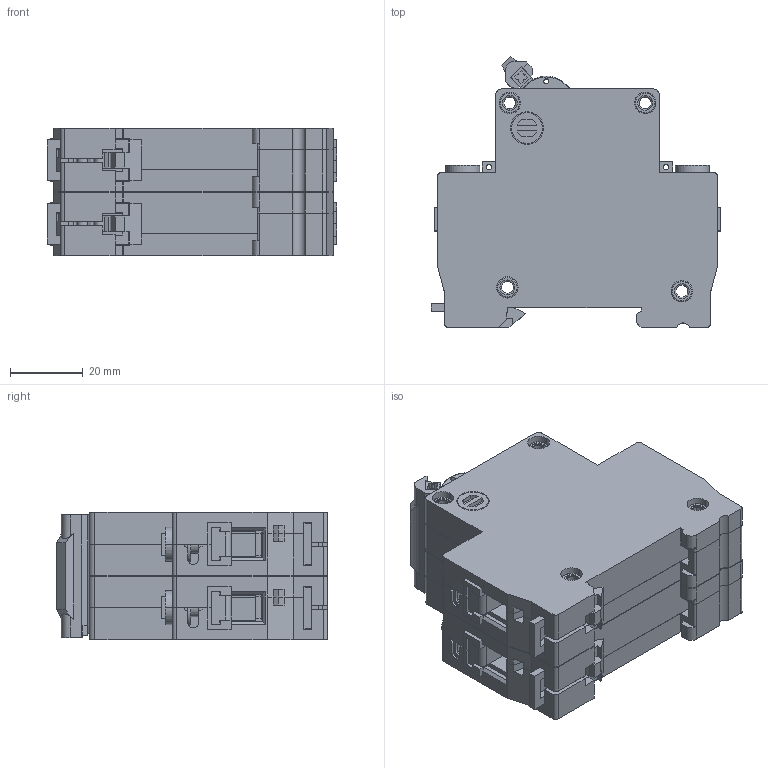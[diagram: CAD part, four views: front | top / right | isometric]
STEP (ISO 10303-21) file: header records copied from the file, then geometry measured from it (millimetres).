
FILE_DESCRIPTION (( 'STEP AP214' ), '1' );
FILE_NAME ('臍47-29 2 瀁錌黟.STEP', '2022-11-18T09:54:59', ( '' ), ( '' ), 'SwSTEP 2.0', 'SolidWorks 2018', '' );
FILE_SCHEMA (( 'AUTOMOTIVE_DESIGN' ));
Length unit declared in the file: millimetre
Products named in the file (13): ﾂﾀ47-29 1ﾕ Changan 04.2022_尚皚･､ｭｨｩ ｯｮｫ髜; 青汶篪赅 (吕47-29) 14.02.2022; Êîëîäêà (ÂÀ47-29) 14.02.2022; ÂÀ47-29 1Õ Changan 04.2022_1 ¤«ï 2; Áîêîâèíà ëåâàÿ (ÂÀ47-29 Changan) 04.2022; 青觌屣赅 (吕47-29 OFA) 04.2022_2 釥; Áîêîâèíà ïðàâàÿ (ÂÀ47-29 Changan) 04.2022; Ðó÷êà (ÂÀ47-29 Changan) 04.2022; ﾂ鏆鮏 (ﾂﾀ47-29 OFA) 14.02.2022; 臍47-29 2 瀁錌黟; 鎔艜 (臍47-29) 14.02.2022; Ñêîáà (ÂÀ47-29 OFA) 04.2022_2 ¯®«îá ; Çàùåëêà (ÂÀ47-29 Changan) 04.2022
Assembly tree (32 placements, depth 3):
  臍47-29 2 瀁錌黟
    ÂÀ47-29 1Õ Changan 04.2022_1 ¤«ï 2
      Áîêîâèíà ïðàâàÿ (ÂÀ47-29 Changan) 04.2022
      Áîêîâèíà ëåâàÿ (ÂÀ47-29 Changan) 04.2022
      Çàùåëêà (ÂÀ47-29 Changan) 04.2022
      Ðó÷êà (ÂÀ47-29 Changan) 04.2022
      青觌屣赅 (吕47-29 OFA) 04.2022_2 釥  x4
      青汶篪赅 (吕47-29) 14.02.2022  x2
      鎔艜 (臍47-29) 14.02.2022  x2
      ﾂ鏆鮏 (ﾂﾀ47-29 OFA) 14.02.2022  x2
      Êîëîäêà (ÂÀ47-29) 14.02.2022  x2
    ﾂﾀ47-29 1ﾕ Changan 04.2022_尚皚･､ｭｨｩ ｯｮｫ髜
      Áîêîâèíà ïðàâàÿ (ÂÀ47-29 Changan) 04.2022
      Áîêîâèíà ëåâàÿ (ÂÀ47-29 Changan) 04.2022
      Çàùåëêà (ÂÀ47-29 Changan) 04.2022
      Ðó÷êà (ÂÀ47-29 Changan) 04.2022
      青汶篪赅 (吕47-29) 14.02.2022  x2
      鎔艜 (臍47-29) 14.02.2022  x2
      ﾂ鏆鮏 (ﾂﾀ47-29 OFA) 14.02.2022  x2
      Êîëîäêà (ÂÀ47-29) 14.02.2022  x2
    Ñêîáà (ÂÀ47-29 OFA) 04.2022_2 ¯®«îá   x2
Bounding box: 79.83 x 74.7 x 35.2 mm (x, y, z)
Volume: 125877.6 mm3; surface area: 69976.2 mm2
Topology: 30 solids, 30 shells, 1848 faces, 4984 edges, 3222 vertices
Faces by surface type: plane 1338, cylinder 442, torus 68
Entity records: 22999 total; most frequent: CARTESIAN_POINT 4052, ORIENTED_EDGE 3874, DIRECTION 3791, EDGE_CURVE 1937, LINE 1499, VECTOR 1499, VERTEX_POINT 1263, AXIS2_PLACEMENT_3D 1146
